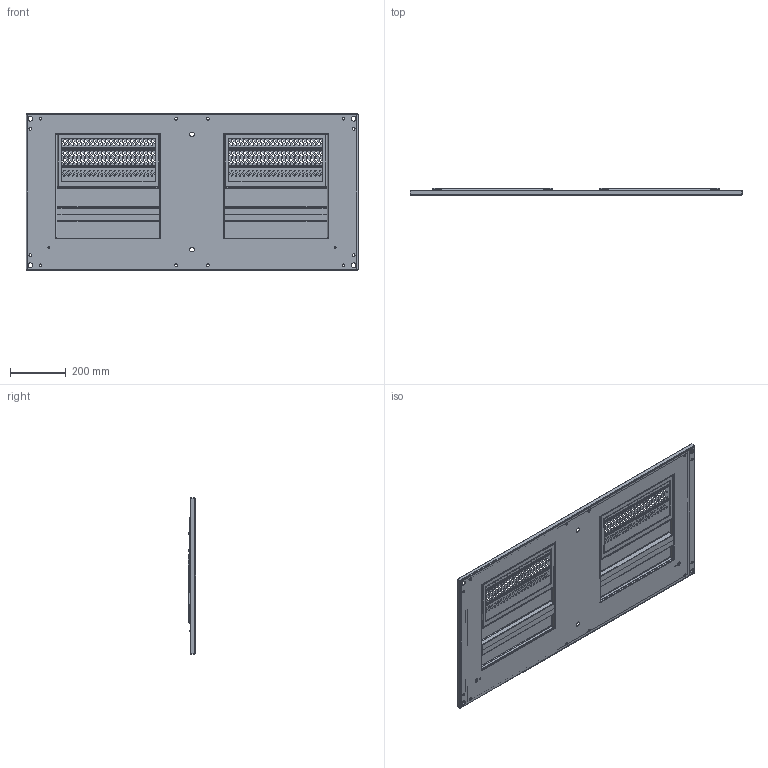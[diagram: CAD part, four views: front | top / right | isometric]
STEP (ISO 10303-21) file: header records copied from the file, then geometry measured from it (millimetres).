
FILE_DESCRIPTION (( 'STEP AP203' ), '1' );
FILE_NAME ('P2BGPV126.STEP', '2019-04-10T20:31:05', ( '' ), ( '' ), 'SwSTEP 2.0', 'SolidWorks 2016', '' );
FILE_SCHEMA (( 'CONFIG_CONTROL_DESIGN' ));
Length unit declared in the file: millimetre
Products named in the file (13): 89128400; 89128281; 89130331_89001805; 89126985; 87931527_87931527; 89130349; 87931368_SLEEVE; 89164020_BBD; 60100041_60100041; P2BGPV126; 89130332; 89164027; 89164042
Assembly tree (20 placements, depth 5):
  P2BGPV126
    89164020_BBD
      89130332
        89130331_89001805
        60100041_60100041  x2
          87931527_87931527
          87931368_SLEEVE
      89164027  x2
      89164042  x2
      89128400  x2
      89128281  x2
      89126985  x4
      89130349
Bounding box: 1190 x 26.18 x 560 mm (x, y, z)
Volume: 2583258.7 mm3; surface area: 2198639.5 mm2
Topology: 18 solids, 18 shells, 2300 faces, 5971 edges, 3786 vertices
Faces by surface type: cylinder 1080, plane 923, torus 272, bspline 13, cone 12
Entity records: 48183 total; most frequent: DIRECTION 8679, CARTESIAN_POINT 8179, ORIENTED_EDGE 7580, EDGE_CURVE 3790, AXIS2_PLACEMENT_3D 3402, VERTEX_POINT 2378, EDGE_LOOP 1954, CIRCLE 1883
